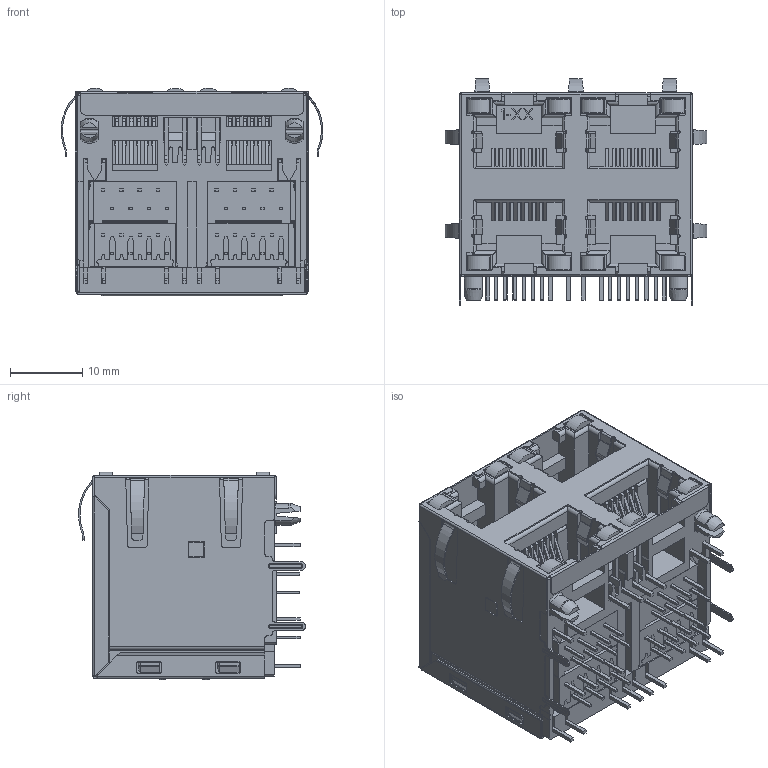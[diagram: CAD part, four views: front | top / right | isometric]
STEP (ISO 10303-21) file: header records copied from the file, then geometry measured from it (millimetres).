
FILE_DESCRIPTION (( 'STEP AP203' ), '1' );
FILE_NAME ('8949-AID3884CxxS1ACBA-HF-1131015.STEP', '2024-10-15T07:42:12', ( '' ), ( '' ), 'SwSTEP 2.0', 'SolidWorks 2019', '' );
FILE_SCHEMA (( 'CONFIG_CONTROL_DESIGN' ));
Length unit declared in the file: millimetre
Products named in the file (13): F45032-200M11_ASM.stp; LED2.stp; N45030-30500.stp; 5931-2X4-L-A-8PHUG.stp; 110686-06212.stp; N45.stp; LED.stp; M45030-20500.stp; 8949-AID3884CxxS1ACBA-HF-1131015; 2X2SHALL-A.stp; N45030-20500.stp; HP11.stp
Assembly tree (21 placements, depth 4):
  8949-AID3884CxxS1ACBA-HF-1131015
    110686-06212.stp
      F45032-200M11_ASM.stp
        N45030-20500.stp
        N45030-30500.stp
      F45032-200M11_ASM.stp
        N45030-20500.stp
        N45030-30500.stp
      5931-2X4-L-A-8PHUG.stp
      M45030-20500.stp
      HP11.stp
      N45.stp  x2
      LED.stp  x4
      LED2.stp  x4
      2X2SHALL-A.stp
Bounding box: 36.28 x 31.43 x 28.78 mm (x, y, z)
Volume: 13663.5 mm3; surface area: 31282.4 mm2
Topology: 50 solids, 50 shells, 4643 faces, 12759 edges, 8140 vertices
Faces by surface type: plane 3583, cylinder 932, bspline 70, sphere 24, torus 20, cone 14
Entity records: 121761 total; most frequent: CARTESIAN_POINT 25741, ORIENTED_EDGE 20342, DIRECTION 18641, EDGE_CURVE 10171, LINE 8383, VECTOR 8383, VERTEX_POINT 6446, AXIS2_PLACEMENT_3D 5129
